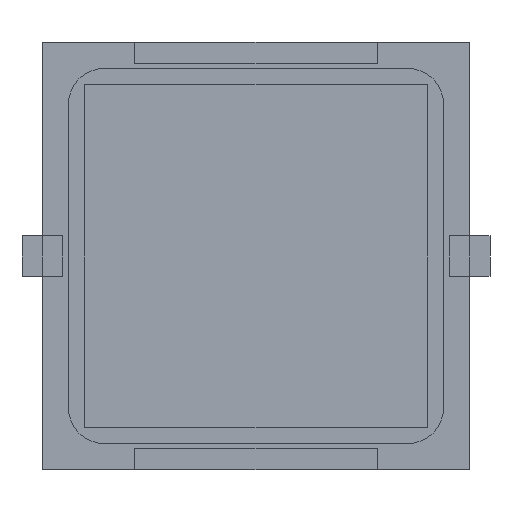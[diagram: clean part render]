
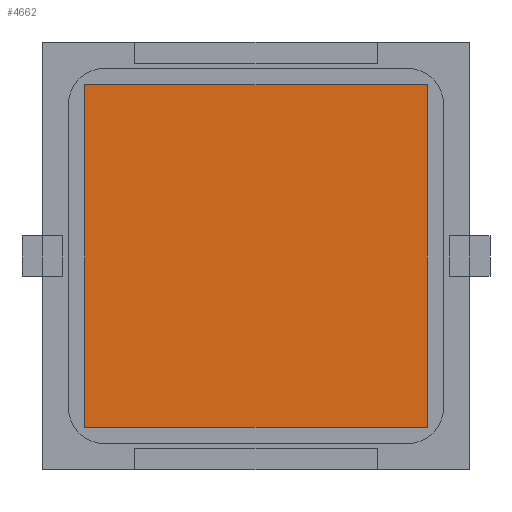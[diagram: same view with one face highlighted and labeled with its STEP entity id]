
A CAD part, front view. The second image highlights one B-rep face of the part: STEP entity #4662.
In plain terms, the highlighted planar face has unit normal (0, -1, 0).
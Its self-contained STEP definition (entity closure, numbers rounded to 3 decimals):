
#13 = CARTESIAN_POINT ( 'NONE',  ( 8.5, -0.1, 8.5 ) ) ;
#225 = FACE_OUTER_BOUND ( 'NONE', #1556, .T. ) ;
#296 = PLANE ( 'NONE',  #3591 ) ;
#592 = CARTESIAN_POINT ( 'NONE',  ( -8.5, -0.1, 8.5 ) ) ;
#828 = VERTEX_POINT ( 'NONE', #3054 ) ;
#1145 = EDGE_CURVE ( 'NONE', #3798, #2488, #4192, .T. ) ;
#1221 = LINE ( 'NONE', #4595, #1955 ) ;
#1248 = CARTESIAN_POINT ( 'NONE',  ( -8.5, -0.1, 8.5 ) ) ;
#1381 = DIRECTION ( 'NONE',  ( 0., 1., 0. ) ) ;
#1450 = ORIENTED_EDGE ( 'NONE', *, *, #1145, .F. ) ;
#1547 = VECTOR ( 'NONE', #3755, 1000. ) ;
#1556 = EDGE_LOOP ( 'NONE', ( #2515, #3237, #1450, #2956 ) ) ;
#1588 = VERTEX_POINT ( 'NONE', #1248 ) ;
#1606 = CARTESIAN_POINT ( 'NONE',  ( 8.5, -0.1, -8.5 ) ) ;
#1914 = CARTESIAN_POINT ( 'NONE',  ( 8.5, -0.1, -8.5 ) ) ;
#1955 = VECTOR ( 'NONE', #4569, 1000. ) ;
#1991 = VECTOR ( 'NONE', #4169, 1000. ) ;
#2112 = DIRECTION ( 'NONE',  ( 0., 0., 1. ) ) ;
#2261 = CARTESIAN_POINT ( 'NONE',  ( -8.5, -0.1, -8.5 ) ) ;
#2488 = VERTEX_POINT ( 'NONE', #1606 ) ;
#2515 = ORIENTED_EDGE ( 'NONE', *, *, #4323, .F. ) ;
#2956 = ORIENTED_EDGE ( 'NONE', *, *, #3760, .F. ) ;
#3054 = CARTESIAN_POINT ( 'NONE',  ( -8.5, -0.1, -8.5 ) ) ;
#3237 = ORIENTED_EDGE ( 'NONE', *, *, #4064, .F. ) ;
#3272 = LINE ( 'NONE', #4277, #4066 ) ;
#3591 = AXIS2_PLACEMENT_3D ( 'NONE', #592, #1381, #2112 ) ;
#3755 = DIRECTION ( 'NONE',  ( 0., 0., 1. ) ) ;
#3760 = EDGE_CURVE ( 'NONE', #1588, #3798, #1221, .T. ) ;
#3798 = VERTEX_POINT ( 'NONE', #13 ) ;
#4064 = EDGE_CURVE ( 'NONE', #2488, #828, #3272, .T. ) ;
#4066 = VECTOR ( 'NONE', #4746, 1000. ) ;
#4110 = LINE ( 'NONE', #2261, #1547 ) ;
#4169 = DIRECTION ( 'NONE',  ( 0., 0., -1. ) ) ;
#4192 = LINE ( 'NONE', #1914, #1991 ) ;
#4277 = CARTESIAN_POINT ( 'NONE',  ( -8.5, -0.1, -8.5 ) ) ;
#4323 = EDGE_CURVE ( 'NONE', #828, #1588, #4110, .T. ) ;
#4569 = DIRECTION ( 'NONE',  ( 1., 0., 0. ) ) ;
#4595 = CARTESIAN_POINT ( 'NONE',  ( -8.5, -0.1, 8.5 ) ) ;
#4662 = ADVANCED_FACE ( 'NONE', ( #225 ), #296, .F. ) ;
#4746 = DIRECTION ( 'NONE',  ( -1., 0., 0. ) ) ;
